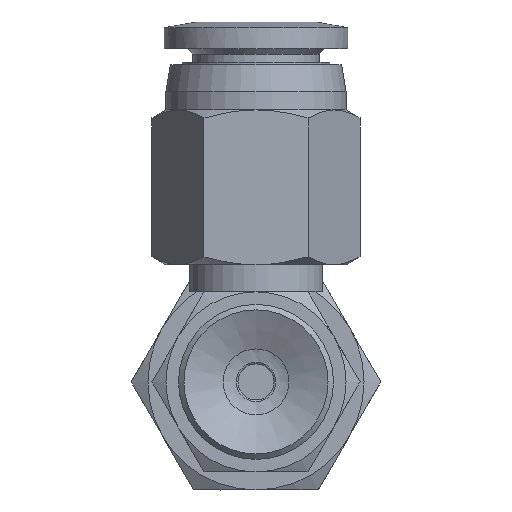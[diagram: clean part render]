
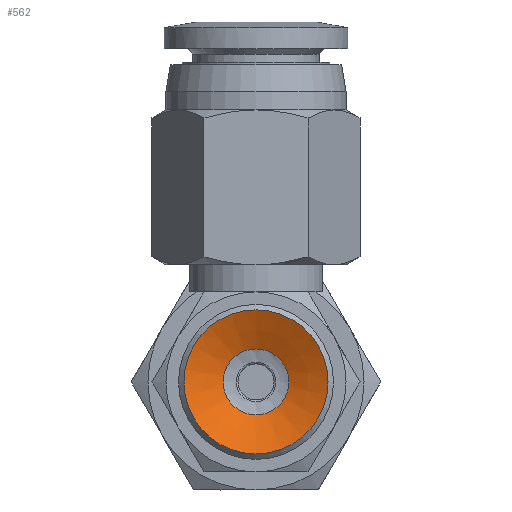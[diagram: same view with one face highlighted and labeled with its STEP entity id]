
A CAD part, front view. The second image highlights one B-rep face of the part: STEP entity #562.
In plain terms, the highlighted conical face has half-angle 65 degrees and reference radius 1.427 mm.
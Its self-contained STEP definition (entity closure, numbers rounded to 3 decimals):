
#562=ADVANCED_FACE('',(#882,#883),#884,.F.);
#882=FACE_BOUND('',#1293,.T.);
#883=FACE_OUTER_BOUND('',#1294,.T.);
#884=CONICAL_SURFACE('',#1295,1.427,1.134);
#1293=EDGE_LOOP('',(#2414));
#1294=EDGE_LOOP('',(#2415));
#1295=AXIS2_PLACEMENT_3D('',#2416,#2417,#2418);
#2414=ORIENTED_EDGE('',*,*,#2969,.T.);
#2415=ORIENTED_EDGE('',*,*,#2959,.T.);
#2416=CARTESIAN_POINT('',(0.0,7.096,0.));
#2417=DIRECTION('',(-0.0,-1.0,0.));
#2418=DIRECTION('',(0.0,0.,-1.0));
#2959=EDGE_CURVE('',#3386,#3386,#3387,.T.);
#2969=EDGE_CURVE('',#3406,#3406,#3407,.T.);
#3386=VERTEX_POINT('',#4312);
#3387=CIRCLE('',#4313,4.0);
#3406=VERTEX_POINT('',#4332);
#3407=CIRCLE('',#4333,1.828);
#4312=CARTESIAN_POINT('',(0.0,5.896,-4.0));
#4313=AXIS2_PLACEMENT_3D('',#5074,#5075,#5076);
#4332=CARTESIAN_POINT('',(0.0,6.909,-1.828));
#4333=AXIS2_PLACEMENT_3D('',#5104,#5105,#5106);
#5074=CARTESIAN_POINT('',(0.0,5.896,0.0));
#5075=DIRECTION('',(0.0,-1.0,0.));
#5076=DIRECTION('',(0.0,0.,-1.0));
#5104=CARTESIAN_POINT('',(0.0,6.909,0.0));
#5105=DIRECTION('',(0.0,1.0,0.));
#5106=DIRECTION('',(0.0,0.,-1.0));
